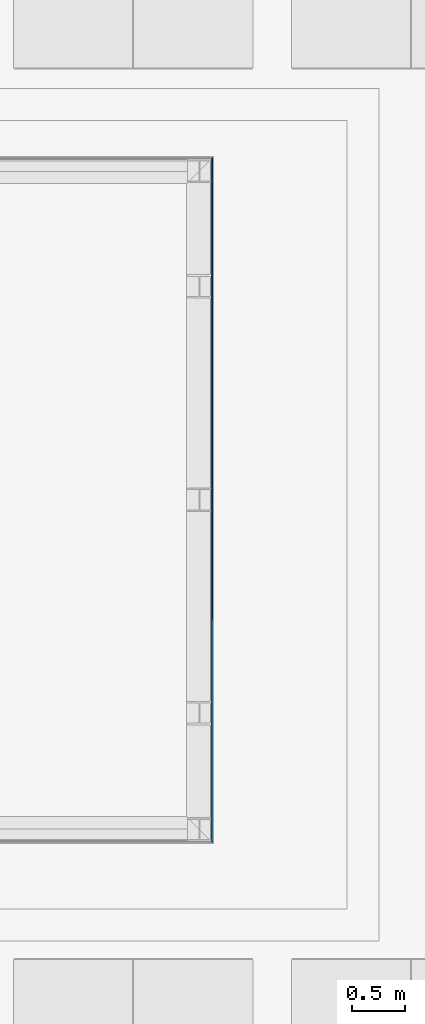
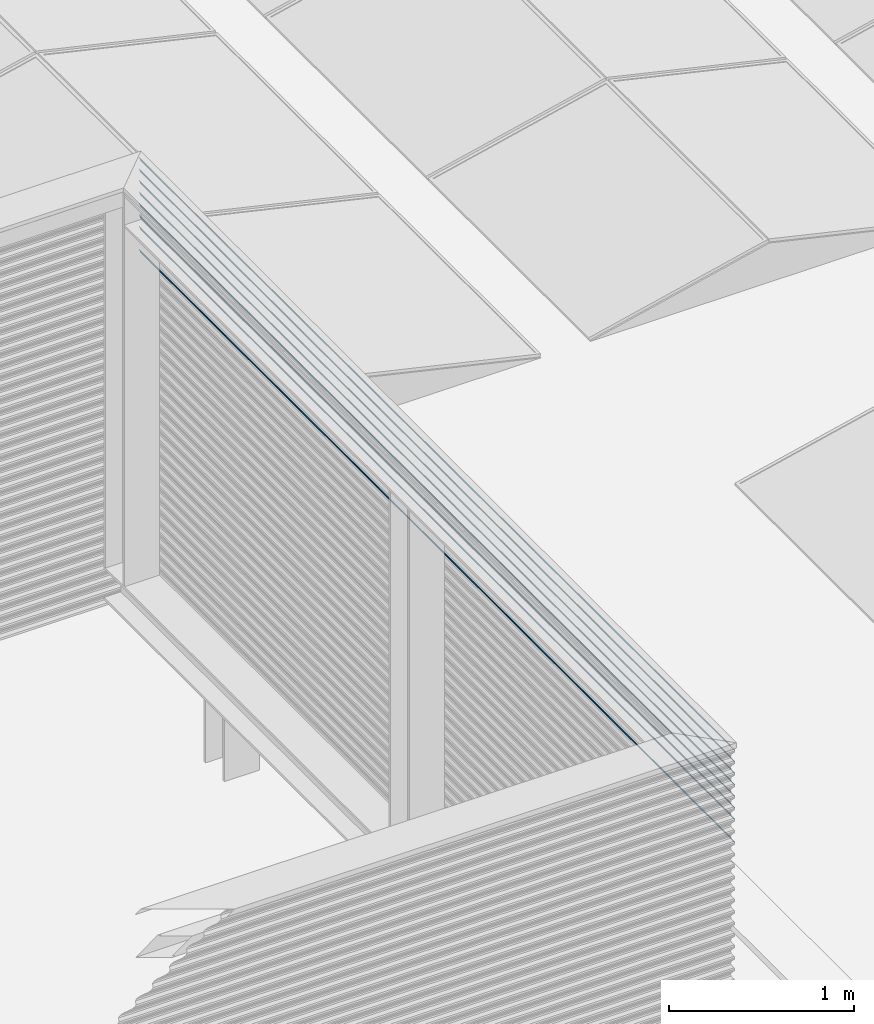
# One storey, part 42 of 63: 8 building element parts, 1 element without a shape of its own.
"""IFC2X3 building model written with IfcOpenShell, lengths in millimetres."""

from ifc_helpers import new_model, entity, si_unit, converted_unit, derived_unit, money_unit, direction, frame, origin_with_axes, place, context, subcontext, project, spatial, faceted_brep, material, type_object, element, aggregate, save


model = new_model("IFC2X3")

# Units and contexts
model_context = context("Model", 3, precision=0.01, world=origin_with_axes(), true_north=direction((0.0, 1.0)))
body_context = subcontext(model_context, "Body", "Model", "MODEL_VIEW")
ifc_project = project(units=[si_unit("LENGTHUNIT", "METRE", prefix="MILLI"), si_unit("AREAUNIT", "SQUARE_METRE"), si_unit("VOLUMEUNIT", "CUBIC_METRE"), converted_unit("PLANEANGLEUNIT", "DEGREE", entity("IfcPlaneAngleMeasure", 0.0174532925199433), si_unit("PLANEANGLEUNIT", "RADIAN"), dimensions=[0, 0, 0, 0, 0, 0, 0]), money_unit("EUR"), converted_unit("TIMEUNIT", "Year", entity("IfcTimeMeasure", 31557600.0), si_unit("TIMEUNIT", "SECOND"), dimensions=[0, 0, 1, 0, 0, 0, 0]), si_unit("MASSUNIT", "GRAM", prefix="KILO"), si_unit("THERMODYNAMICTEMPERATUREUNIT", "DEGREE_CELSIUS"), si_unit("LUMINOUSINTENSITYUNIT", "LUMEN"), si_unit("ENERGYUNIT", "JOULE", prefix="MEGA"), derived_unit("THERMALCONDUCTANCEUNIT", [(si_unit("POWERUNIT", "WATT"), 1), (si_unit("LENGTHUNIT", "METRE"), -1), (si_unit("THERMODYNAMICTEMPERATUREUNIT", "KELVIN"), -1)]), derived_unit("SPECIFICHEATCAPACITYUNIT", [(si_unit("ENERGYUNIT", "JOULE"), 1), (si_unit("MASSUNIT", "GRAM", prefix="KILO"), -1), (si_unit("THERMODYNAMICTEMPERATUREUNIT", "KELVIN"), -1)]), derived_unit("MASSDENSITYUNIT", [(si_unit("MASSUNIT", "GRAM", prefix="KILO"), 1), (si_unit("VOLUMEUNIT", "CUBIC_METRE"), -1)])], contexts=[model_context])

# Site, building, storey
site_placement = place(None, origin_with_axes())
site = spatial("IfcSite", under=ifc_project, at=site_placement, Name="<site naam>", CompositionType="ELEMENT")
building_placement = place(site_placement, origin_with_axes())
building = spatial("IfcBuilding", under=site, at=building_placement, Name="<Naam gebouw>", CompositionType="ELEMENT")
storey_placement = place(building_placement, frame((0.0, 0.0, 12770.0), z_axis=(0.0, 0.0, 1.0), x_axis=(1.0, 0.0, 0.0)))
storey = spatial("IfcBuildingStorey", under=building, at=storey_placement, Name="04 4e verdieping", CompositionType="ELEMENT", Elevation=12770.0)

# Wall, building element parts
wall_type = type_object("IfcWallType", Name="Gevelbeplating golf 18 x 2900", PredefinedType="NOTDEFINED")
wall_placement = place(storey_placement, frame((58128.00007858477, 6781.999921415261, 299.9552842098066), z_axis=(0.0, 0.0, 1.0), x_axis=(0.0, 1.0, 0.0)))
wall = element("IfcWall", 1, at=wall_placement, inside=storey, type_object=wall_type, Name="47_Binnenwand_Gevelbeplating")
ifc_material = material(Name="gevelafwerking type 3 - Aluminium RAL1036")
building_element_part_1_placement = place(wall_placement, origin_with_axes())
building_element_part_1 = element("IfcBuildingElementPart", 2, at=building_element_part_1_placement, material=ifc_material, Name="gevelafwerking type 3 - Aluminium RAL1036", context=body_context, shape_type="Brep", body=[
    faceted_brep([(3.340053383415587, 2.257296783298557, 2252.431773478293), (3.116416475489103, 2.188164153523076, 2252.112325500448), (0.9999380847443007, -6.19152586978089e-05, 2241.999999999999), (6436.000261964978, -6.19152586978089e-05, 2242.000013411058), (6433.742884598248, 2.257296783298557, 2252.431773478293), (9.041521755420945, 8.209496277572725, 2260.575878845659), (9.041521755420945, 9.041521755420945, 2260.575878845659), (3.116416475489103, 3.116416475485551, 2252.112325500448), (0.9999380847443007, 0.9999380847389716, 2241.999999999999), (6436.000261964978, 0.9999380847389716, 2242.000013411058), (6433.742884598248, 3.340053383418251, 2252.431773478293), (6433.812015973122, 3.116416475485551, 2252.112325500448), (6427.445005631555, 8.555190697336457, 2261.048872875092), (9.39805081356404, 8.555190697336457, 2261.048872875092), (15.6292009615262, 14.54418386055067, 2269.315511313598), (15.6292009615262, 15.62920096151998, 2269.315511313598), (6427.790697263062, 9.041521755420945, 2260.575878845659), (6427.445005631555, 9.398050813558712, 2261.048872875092), (6421.225040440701, 14.77513517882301, 2269.634296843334), (15.69993496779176, 14.77513517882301, 2269.634296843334), (17.99993808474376, 16.99993570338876, 2280.0), (17.99993808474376, 17.99993808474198, 2280.0), (6421.455994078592, 15.62920096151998, 2269.315511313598), (6421.225040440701, 15.69993496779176, 2269.634296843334), (6419.000241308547, 16.99993570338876, 2279.999983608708), (6419.000241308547, 17.99993808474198, 2279.999983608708)], [[[0, 1, 2, 3, 4]], [[1, 0, 5, 6, 7]], [[8, 2, 1, 7]], [[2, 8, 9, 3]], [[10, 4, 3, 9, 11]], [[5, 0, 4, 12, 13]], [[5, 13, 14, 15, 6]], [[7, 6, 16, 10, 11]], [[8, 7, 11, 9]], [[17, 12, 4, 10, 16]], [[14, 13, 12, 18, 19]], [[14, 19, 20, 21, 15]], [[6, 15, 22, 17, 16]], [[23, 18, 12, 17, 22]], [[20, 19, 18, 24]], [[21, 20, 24, 25]], [[15, 21, 25, 23, 22]], [[25, 24, 18, 23]]]),
])
building_element_part_2_placement = place(wall_placement, origin_with_axes())
building_element_part_2 = element("IfcBuildingElementPart", 3, at=building_element_part_2_placement, material=ifc_material, Name="gevelafwerking type 3 - Aluminium RAL1036", context=body_context, shape_type="Brep", body=[
    faceted_brep([(3.340072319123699, 2.257289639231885, 2480.431810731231), (3.116409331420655, 2.188158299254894, 2480.112325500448), (0.9999309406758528, -6.905932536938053e-05, 2469.999999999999), (6436.000266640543, -6.905932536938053e-05, 2470.000007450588), (6433.742884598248, 2.257289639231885, 2480.431810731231), (9.041514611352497, 8.209461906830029, 2488.57587884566), (9.041514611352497, 9.041514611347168, 2488.57587884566), (3.116409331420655, 3.116409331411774, 2480.112325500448), (0.9999309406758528, 0.9999309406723, 2469.999999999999), (6436.000266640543, 0.9999309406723, 2470.000007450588), (6433.742884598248, 3.340072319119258, 2480.431810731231), (6433.812019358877, 3.116409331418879, 2480.112325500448), (6427.445005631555, 8.555183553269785, 2489.04891012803), (9.398071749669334, 8.555183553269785, 2489.04891012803), (15.62919381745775, 14.544149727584, 2497.3155113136), (15.62919381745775, 15.62919381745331, 2497.3155113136), (6427.790724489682, 9.041514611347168, 2488.57587884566), (6427.445005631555, 9.398071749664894, 2489.04891012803), (6421.2250404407, 14.77512803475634, 2497.634334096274), (15.69993608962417, 14.77512803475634, 2497.634334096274), (17.9999309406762, 16.99992855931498, 2507.999999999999), (17.9999309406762, 17.99993094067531, 2507.999999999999), (6421.456021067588, 15.62919381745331, 2497.3155113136), (6421.2250404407, 15.69993608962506, 2497.634334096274), (6419.000241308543, 16.99992855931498, 2508.000020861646), (6419.000241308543, 17.99993094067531, 2508.000020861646)], [[[0, 1, 2, 3, 4]], [[1, 0, 5, 6, 7]], [[8, 2, 1, 7]], [[2, 8, 9, 3]], [[10, 4, 3, 9, 11]], [[5, 0, 4, 12, 13]], [[5, 13, 14, 15, 6]], [[7, 6, 16, 10, 11]], [[8, 7, 11, 9]], [[17, 12, 4, 10, 16]], [[14, 13, 12, 18, 19]], [[14, 19, 20, 21, 15]], [[6, 15, 22, 17, 16]], [[23, 18, 12, 17, 22]], [[20, 19, 18, 24]], [[21, 20, 24, 25]], [[15, 21, 25, 23, 22]], [[25, 24, 18, 23]]]),
])
building_element_part_3_placement = place(wall_placement, origin_with_axes())
building_element_part_3 = element("IfcBuildingElementPart", 4, at=building_element_part_3_placement, material=ifc_material, Name="gevelafwerking type 3 - Aluminium RAL1036", context=body_context, shape_type="Brep", body=[
    faceted_brep([(3.340058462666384, 2.257287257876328, 2556.431794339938), (3.116406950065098, 2.188159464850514, 2556.112325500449), (0.9999285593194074, -7.144068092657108e-05, 2546.0), (6436.000266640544, -7.144068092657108e-05, 2545.999991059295), (6433.742884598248, 2.257287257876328, 2556.431794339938), (9.04151222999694, 8.209471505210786, 2564.575878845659), (9.04151222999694, 9.04151222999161, 2564.575878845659), (3.116406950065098, 3.116406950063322, 2556.112325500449), (0.9999285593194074, 0.9999285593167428, 2546.0), (6436.000266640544, 0.9999285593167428, 2545.999991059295), (6433.742884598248, 3.340058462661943, 2556.431794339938), (6433.812015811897, 3.116406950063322, 2556.112325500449), (6427.445005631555, 8.555181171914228, 2565.048893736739), (9.398057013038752, 8.555181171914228, 2565.048893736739), (15.62919143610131, 14.54415922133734, 2573.315511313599), (15.62919143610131, 15.62919143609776, 2573.315511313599), (6427.790712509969, 9.04151222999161, 2564.575878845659), (6427.445005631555, 9.398057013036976, 2565.048893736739), (6421.225083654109, 14.77512565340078, 2573.634317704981), (15.69993007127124, 14.77512565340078, 2573.634317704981), (17.99992855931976, 16.99992617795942, 2584.0), (17.99992855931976, 17.99992855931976, 2584.0), (6421.456050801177, 15.62919143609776, 2573.315511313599), (6421.225083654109, 15.69993007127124, 2573.634317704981), (6419.000284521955, 16.99992617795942, 2584.000004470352), (6419.000284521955, 17.99992855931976, 2584.000004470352)], [[[0, 1, 2, 3, 4]], [[1, 0, 5, 6, 7]], [[8, 2, 1, 7]], [[2, 8, 9, 3]], [[10, 4, 3, 9, 11]], [[5, 0, 4, 12, 13]], [[5, 13, 14, 15, 6]], [[7, 6, 16, 10, 11]], [[8, 7, 11, 9]], [[17, 12, 4, 10, 16]], [[14, 13, 12, 18, 19]], [[14, 19, 20, 21, 15]], [[6, 15, 22, 17, 16]], [[23, 18, 12, 17, 22]], [[20, 19, 18, 24]], [[21, 20, 24, 25]], [[15, 21, 25, 23, 22]], [[25, 24, 18, 23]]]),
])
building_element_part_4_placement = place(wall_placement, origin_with_axes())
building_element_part_4 = element("IfcBuildingElementPart", 5, at=building_element_part_4_placement, material=ifc_material, Name="gevelafwerking type 3 - Aluminium RAL1036", context=body_context, shape_type="Brep", body=[
    faceted_brep([(3.340044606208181, 2.257284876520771, 2632.431777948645), (3.116404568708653, 2.188151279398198, 2632.112325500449), (0.9999261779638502, -7.382203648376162e-05, 2622.0), (6436.000261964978, -7.382203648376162e-05, 2622.00001788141), (6433.742884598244, 2.257284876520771, 2632.431777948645), (9.041509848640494, 8.209481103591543, 2640.57587884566), (9.041509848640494, 9.041509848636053, 2640.57587884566), (3.116404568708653, 3.116404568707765, 2632.112325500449), (0.9999261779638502, 0.9999261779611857, 2622.0), (6436.000261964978, 0.9999261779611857, 2622.00001788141), (6433.742884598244, 3.340044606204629, 2632.431777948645), (6433.812016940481, 3.116404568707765, 2632.112325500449), (6427.445005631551, 8.55517879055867, 2641.048877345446), (9.398042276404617, 8.55517879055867, 2641.048877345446), (15.62918905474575, 14.54416871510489, 2649.315511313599), (15.62918905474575, 15.6291890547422, 2649.315511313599), (6427.790700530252, 9.041509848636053, 2640.57587884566), (6427.445005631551, 9.398042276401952, 2641.048877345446), (6421.225083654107, 14.77512327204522, 2649.634301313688), (15.69992405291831, 14.77512327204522, 2649.634301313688), (17.99992617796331, 16.99992379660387, 2659.999999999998), (17.99992617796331, 17.9999261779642, 2659.999999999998), (6421.456038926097, 15.6291890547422, 2649.315511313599), (6421.225083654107, 15.69992405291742, 2649.634301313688), (6419.000284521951, 16.99992379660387, 2659.99998807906), (6419.000284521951, 17.9999261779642, 2659.99998807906)], [[[0, 1, 2, 3, 4]], [[1, 0, 5, 6, 7]], [[8, 2, 1, 7]], [[2, 8, 9, 3]], [[10, 4, 3, 9, 11]], [[5, 0, 4, 12, 13]], [[5, 13, 14, 15, 6]], [[7, 6, 16, 10, 11]], [[8, 7, 11, 9]], [[17, 12, 4, 10, 16]], [[14, 13, 12, 18, 19]], [[14, 19, 20, 21, 15]], [[6, 15, 22, 17, 16]], [[23, 18, 12, 17, 22]], [[20, 19, 18, 24]], [[21, 20, 24, 25]], [[15, 21, 25, 23, 22]], [[25, 24, 18, 23]]]),
])
building_element_part_5_placement = place(wall_placement, origin_with_axes())
building_element_part_5 = element("IfcBuildingElementPart", 6, at=building_element_part_5_placement, material=ifc_material, Name="gevelafwerking type 3 - Aluminium RAL1036", context=body_context, shape_type="Brep", body=[
    faceted_brep([(3.34006338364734, 2.257284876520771, 2708.431804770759), (3.116404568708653, 2.18815482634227, 2708.112325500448), (0.9999261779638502, -7.382203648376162e-05, 2697.999999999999), (6436.000266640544, -7.382203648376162e-05, 2698.000001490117), (6433.742884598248, 2.257284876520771, 2708.431804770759), (9.041509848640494, 8.209461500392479, 2716.575878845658), (9.041509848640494, 9.041509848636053, 2716.575878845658), (3.116404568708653, 3.116404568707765, 2708.112325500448), (0.9999261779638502, 0.9999261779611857, 2697.999999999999), (6436.000266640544, 0.9999261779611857, 2698.000001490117), (6433.742884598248, 3.340063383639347, 2708.431804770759), (6433.812018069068, 3.116404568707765, 2708.112325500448), (6427.445005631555, 8.55517879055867, 2717.048904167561), (9.398062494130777, 8.55517879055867, 2717.048904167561), (15.62918905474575, 14.54414928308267, 2725.315511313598), (15.62918905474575, 15.6291890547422, 2725.315511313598), (6427.790720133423, 9.041509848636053, 2716.575878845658), (6427.445005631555, 9.398062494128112, 2717.048904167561), (6421.225083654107, 14.77512327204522, 2725.634328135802), (15.69993000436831, 14.77512327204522, 2725.634328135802), (17.99992617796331, 16.99992379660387, 2735.999999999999), (17.99992617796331, 17.9999261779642, 2735.999999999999), (6421.456058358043, 15.6291890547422, 2725.315511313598), (6421.225083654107, 15.69993000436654, 2725.634328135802), (6419.000284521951, 16.99992379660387, 2736.000014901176), (6419.000284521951, 17.9999261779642, 2736.000014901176)], [[[0, 1, 2, 3, 4]], [[1, 0, 5, 6, 7]], [[8, 2, 1, 7]], [[2, 8, 9, 3]], [[10, 4, 3, 9, 11]], [[5, 0, 4, 12, 13]], [[5, 13, 14, 15, 6]], [[7, 6, 16, 10, 11]], [[8, 7, 11, 9]], [[17, 12, 4, 10, 16]], [[14, 13, 12, 18, 19]], [[14, 19, 20, 21, 15]], [[6, 15, 22, 17, 16]], [[23, 18, 12, 17, 22]], [[20, 19, 18, 24]], [[21, 20, 24, 25]], [[15, 21, 25, 23, 22]], [[25, 24, 18, 23]]]),
])
building_element_part_6_placement = place(wall_placement, origin_with_axes())
building_element_part_6 = element("IfcBuildingElementPart", 7, at=building_element_part_6_placement, material=ifc_material, Name="gevelafwerking type 3 - Aluminium RAL1036", context=body_context, shape_type="Brep", body=[
    faceted_brep([(6433.742927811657, 2.257280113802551, 2860.431771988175), (3.340035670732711, 2.257280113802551, 2860.431771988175), (3.11639980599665, 2.188147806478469, 2860.112325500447), (0.9999214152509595, -7.858475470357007e-05, 2850.0), (6436.000266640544, -7.858475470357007e-05, 2850.00001192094), (9.398033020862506, 8.555174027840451, 2869.048871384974), (9.041505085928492, 8.209480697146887, 2868.575878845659), (6427.445005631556, 8.555174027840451, 2869.048871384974), (3.11639980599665, 3.11639980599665, 2860.112325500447), (9.041505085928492, 9.041505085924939, 2868.575878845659), (0.9999214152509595, 0.9999214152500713, 2850.0), (6436.000266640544, 0.9999214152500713, 2850.00001192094), (6433.812053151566, 3.11639980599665, 2860.112325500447), (6433.742927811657, 3.340035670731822, 2860.431771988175), (15.62918429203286, 14.54416827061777, 2877.315511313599), (15.62918429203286, 15.62918429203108, 2877.315511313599), (6427.790698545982, 9.041505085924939, 2868.575878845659), (6427.445005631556, 9.398033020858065, 2869.048871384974), (15.69991796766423, 14.775118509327, 2877.634295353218), (6421.225083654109, 14.775118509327, 2877.634295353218), (17.99992141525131, 16.99991903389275, 2888.0), (17.99992141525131, 17.99992141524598, 2888.0), (6421.456034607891, 15.62918429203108, 2877.315511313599), (6421.225083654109, 15.69991796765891, 2877.634295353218), (6419.000284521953, 16.99991903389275, 2887.99998211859), (6419.000284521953, 17.99992141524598, 2887.99998211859)], [[[0, 1, 2, 3, 4]], [[5, 6, 1, 0, 7]], [[8, 2, 1, 6, 9]], [[8, 10, 3, 2]], [[4, 3, 10, 11]], [[12, 13, 0, 4, 11]], [[9, 6, 5, 14, 15]], [[16, 17, 7, 0, 13]], [[18, 14, 5, 7, 19]], [[12, 8, 9, 16, 13]], [[11, 10, 8, 12]], [[15, 14, 18, 20, 21]], [[16, 9, 15, 22, 17]], [[22, 23, 19, 7, 17]], [[24, 20, 18, 19]], [[25, 21, 20, 24]], [[22, 15, 21, 25, 23]], [[23, 25, 24, 19]]]),
])
building_element_part_7_placement = place(wall_placement, origin_with_axes())
building_element_part_7 = element("IfcBuildingElementPart", 8, at=building_element_part_7_placement, material=ifc_material, Name="gevelafwerking type 3 - Aluminium RAL1036", context=body_context, shape_type="Brep", body=[
    faceted_brep([(3.340055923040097, 2.257292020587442, 2404.431783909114), (3.116411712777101, 2.188166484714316, 2404.112325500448), (0.9999333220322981, -6.667796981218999e-05, 2394.0), (6436.000266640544, -6.667796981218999e-05, 2393.999980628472), (6433.742884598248, 2.257292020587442, 2404.431783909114), (9.041516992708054, 8.209483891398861, 2412.57587884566), (9.041516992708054, 9.041516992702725, 2412.57587884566), (3.116411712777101, 3.116411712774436, 2404.112325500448), (0.9999333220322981, 0.9999333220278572, 2394.0), (6436.000266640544, 0.9999333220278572, 2393.999980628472), (6433.742884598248, 3.340055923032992, 2404.431783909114), (6433.812013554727, 3.116411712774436, 2404.112325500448), (6427.445005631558, 8.555185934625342, 2413.048883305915), (9.398053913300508, 8.555185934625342, 2413.048883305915), (15.6291961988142, 14.54417154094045, 2421.315511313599), (15.6291961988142, 15.62919619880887, 2421.315511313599), (6427.790704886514, 9.041516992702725, 2412.57587884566), (6427.445005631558, 9.39805391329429, 2413.048883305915), (6421.2250404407, 14.77513041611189, 2421.634307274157), (15.6999325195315, 14.77513041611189, 2421.634307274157), (17.99993332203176, 16.99993094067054, 2432.0), (17.99993332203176, 17.99993332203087, 2432.0), (6421.456001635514, 15.62919619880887, 2421.315511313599), (6421.2250404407, 15.6999325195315, 2421.634307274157), (6419.000241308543, 16.99993094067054, 2431.999994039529), (6419.000241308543, 17.99993332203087, 2431.999994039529)], [[[0, 1, 2, 3, 4]], [[1, 0, 5, 6, 7]], [[8, 2, 1, 7]], [[2, 8, 9, 3]], [[10, 4, 3, 9, 11]], [[5, 0, 4, 12, 13]], [[5, 13, 14, 15, 6]], [[7, 6, 16, 10, 11]], [[8, 7, 11, 9]], [[17, 12, 4, 10, 16]], [[14, 13, 12, 18, 19]], [[14, 19, 20, 21, 15]], [[6, 15, 22, 17, 16]], [[23, 18, 12, 17, 22]], [[20, 19, 18, 24]], [[21, 20, 24, 25]], [[15, 21, 25, 23, 22]], [[25, 24, 18, 23]]]),
])
building_element_part_8_placement = place(wall_placement, origin_with_axes())
building_element_part_8 = element("IfcBuildingElementPart", 9, at=building_element_part_8_placement, material=ifc_material, Name="gevelafwerking type 3 - Aluminium RAL1036", context=body_context, shape_type="Brep", body=[
    faceted_brep([(3.340049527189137, 2.257282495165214, 2784.431788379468), (3.116402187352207, 2.188155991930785, 2784.112325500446), (0.9999237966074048, -7.620339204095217e-05, 2773.999999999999), (6436.000266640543, -7.620339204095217e-05, 2773.999985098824), (6433.742884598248, 2.257282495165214, 2784.431788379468), (9.041507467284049, 8.209471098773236, 2792.575878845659), (9.041507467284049, 9.041507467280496, 2792.575878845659), (3.116402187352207, 3.116402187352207, 2784.112325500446), (0.9999237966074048, 0.9999237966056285, 2773.999999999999), (6436.000266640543, 0.9999237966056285, 2773.999985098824), (6433.742884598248, 3.340049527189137, 2784.431788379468), (6433.812014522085, 3.116402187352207, 2784.112325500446), (6427.445005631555, 8.555176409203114, 2793.048887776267), (9.39804775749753, 8.555176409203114, 2793.048887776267), (15.62918667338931, 14.54415877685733, 2801.315511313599), (15.62918667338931, 15.62918667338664, 2801.315511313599), (6427.79070815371, 9.041507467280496, 2792.575878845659), (6427.445005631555, 9.398047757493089, 2793.048887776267), (6421.225083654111, 14.77512089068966, 2801.634311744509), (15.69992398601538, 14.77512089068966, 2801.634311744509), (17.99992379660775, 16.99992141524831, 2812.0), (17.99992379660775, 17.99992379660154, 2812.0), (6421.456046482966, 15.62918667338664, 2801.315511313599), (6421.225083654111, 15.69992398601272, 2801.634311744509), (6419.000284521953, 16.99992141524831, 2811.999998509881), (6419.000284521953, 17.99992379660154, 2811.999998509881)], [[[0, 1, 2, 3, 4]], [[1, 0, 5, 6, 7]], [[8, 2, 1, 7]], [[2, 8, 9, 3]], [[10, 4, 3, 9, 11]], [[5, 0, 4, 12, 13]], [[5, 13, 14, 15, 6]], [[7, 6, 16, 10, 11]], [[8, 7, 11, 9]], [[17, 12, 4, 10, 16]], [[14, 13, 12, 18, 19]], [[14, 19, 20, 21, 15]], [[6, 15, 22, 17, 16]], [[23, 18, 12, 17, 22]], [[20, 19, 18, 24]], [[21, 20, 24, 25]], [[15, 21, 25, 23, 22]], [[25, 24, 18, 23]]]),
])
aggregate(wall, [building_element_part_1, building_element_part_2, building_element_part_3, building_element_part_4, building_element_part_5, building_element_part_6, building_element_part_7, building_element_part_8])

save(model, "model.ifc")
